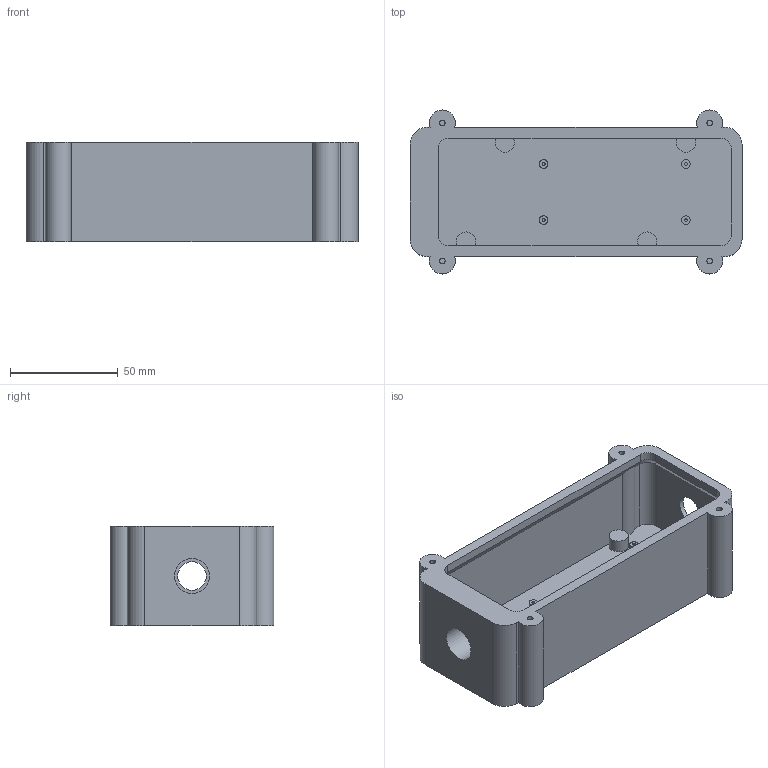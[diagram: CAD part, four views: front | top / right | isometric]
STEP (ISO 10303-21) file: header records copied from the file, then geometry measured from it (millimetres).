
FILE_DESCRIPTION(('Open CASCADE Model'),'2;1');
FILE_NAME('Open CASCADE Shape Model','2026-10-13T15:40:04',('Author'),( 'Open CASCADE'),'Open CASCADE STEP processor 7.9','Open CASCADE 7.9' ,'Unknown');
FILE_SCHEMA(('AUTOMOTIVE_DESIGN { 1 0 10303 214 1 1 1 1 }'));
Length unit declared in the file: millimetre
Products named in the file (1): Open CASCADE STEP translator 7.9 1
Bounding box: 154 x 76 x 46 mm (x, y, z)
Volume: 113811.6 mm3; surface area: 59174.4 mm2
Topology: 1 solids, 1 shells, 89 faces, 188 edges, 122 vertices
Faces by surface type: cylinder 42, plane 40, bspline 7
Full cylindrical faces by diameter (mm): 1.3 x4, 2.6 x8, 4 x4, 9 x4, 13.2 x1, 16.2 x1
Entity records: 5648 total; most frequent: CARTESIAN_POINT 1820, DIRECTION 704, ORIENTED_EDGE 376, PCURVE 376, DEFINITIONAL_REPRESENTATION 376, LINE 333, VECTOR 333, EDGE_CURVE 188
